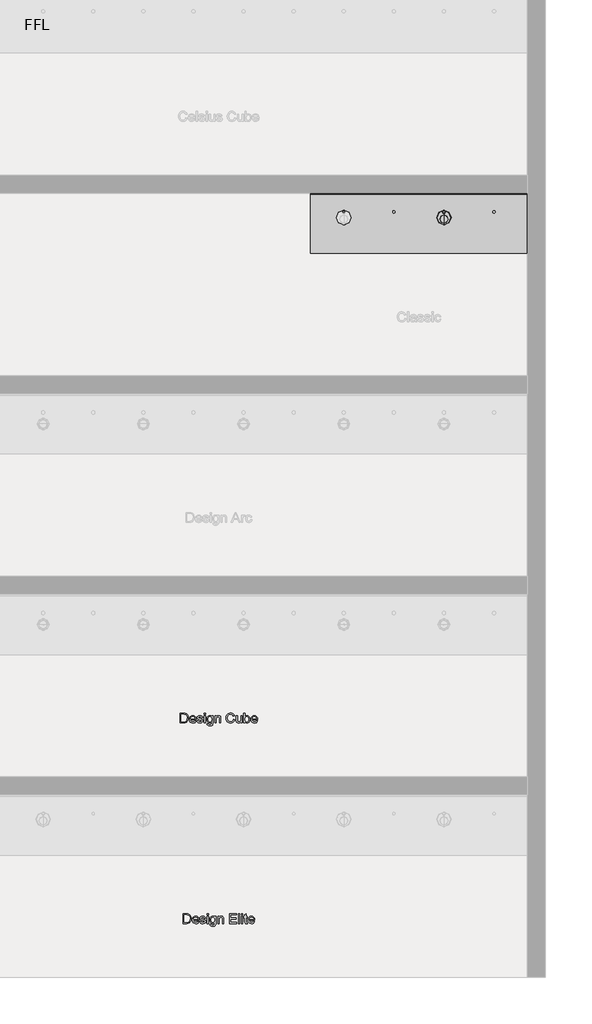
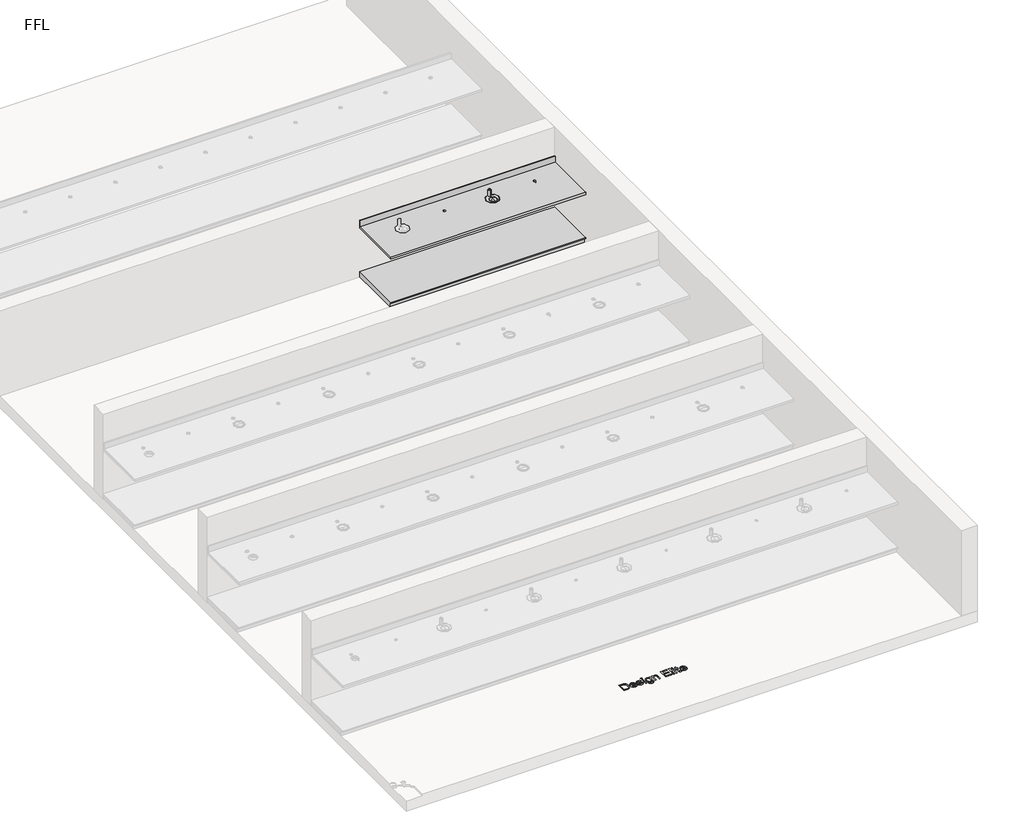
# One storey, part 4 of 5: 2 furniture elements, 2 proxies, 1 flow terminal.
"""IFC4 building model written with IfcOpenShell, lengths in millimetres."""

from ifc_helpers import new_model, si_unit, frame, origin, origin_with_axes, place, context, project, spatial, polyline, circle_curve, outline, extrude, transform, mapped, element, save
from ifc_brep_helpers import plane_surface, revolved_surface, advanced_brep
from components import bright_chrome_13082571, generic_plinth_900mm_89497062

model = new_model("IFC4")

# Units and contexts
model_context = context("Model", 3, world=origin())
ifc_project = project(units=[si_unit("LENGTHUNIT", "METRE", prefix="MILLI")], contexts=[model_context])

# Site, building, storey
site = spatial("IfcSite", under=ifc_project)
building = spatial("IfcBuilding", under=site)
storey = spatial("IfcBuildingStorey", under=building, Name="FFL", Elevation=0.0)

# Proxies
placement = place(None, origin())
element("IfcBuildingElementProxy", 1, Name="150mm Arial", ObjectType="150mm Arial", at=placement, inside=storey, context=model_context, shape_type="SweptSolid", body=[
    extrude(outline(polyline([(-2919.3501351, -75.6314289), (-2919.3501351, 72.0608788), (-2868.4006159, 72.0608788), (-2842.0424428, 69.9334749), (-2820.335712, 59.3685711), (-2810.1223707, 48.1185711), (-2802.8477313, 34.1281865), (-2798.4937649, 17.6678499), (-2797.0424428, -0.9920059), (-2800.9727313, -30.7936885), (-2811.0688851, -52.302102), (-2824.554462, -65.6975347), (-2842.2047024, -73.1073905), (-2865.9486928, -75.6314289), (-2919.3501351, -75.6314289)]), holes=[polyline([(-2900.8885967, -57.1698905), (-2868.2203274, -57.1698905), (-2844.4583082, -54.5016212), (-2830.7563851, -46.9655635), (-2819.524414, -28.630227), (-2815.5039813, -0.7035443), (-2817.4736327, 19.416648), (-2823.382587, 34.2724172), (-2832.1130558, 44.4767441), (-2842.5472505, 50.6426095), (-2868.7251351, 53.5993403), (-2900.8885967, 53.5993403), (-2900.8885967, -57.1698905)])]), origin_with_axes(), (0.0, 0.0, 1.0), 5.0),
    extrude(outline(polyline([(-2698.0280197, -43.3237366), (-2679.9270582, -45.6314289), (-2686.4489933, -59.270251), (-2696.8561447, -69.4655635), (-2710.9141375, -75.8207318), (-2728.3885967, -77.9391212), (-2750.0502553, -74.2837727), (-2766.7179236, -63.317727), (-2777.3459284, -45.7531236), (-2780.8885967, -22.302102), (-2777.3098707, 1.9376816), (-2766.5736928, 20.0656865), (-2750.1313851, 31.369773), (-2729.4342697, 35.1378018), (-2709.3816856, 31.3787874), (-2693.3585486, 20.1017441), (-2682.8522385, 2.009797), (-2679.3501351, -22.1939289), (-2679.4583082, -27.1698905), (-2762.4270582, -27.1698905), (-2759.2314452, -40.989001), (-2751.8080678, -51.1482559), (-2741.094426, -57.395251), (-2728.0280197, -59.4775828), (-2709.9270582, -55.6194097), (-2698.0280197, -43.3237366)]), holes=[polyline([(-2762.4270582, -8.708352), (-2697.8116736, -8.708352), (-2700.3086688, 1.0452538), (-2705.2035005, 8.0224172), (-2715.9667217, 14.5128018), (-2729.5063851, 16.6762634), (-2741.9507962, 14.9500014), (-2752.2407601, 9.7712153), (-2759.3937048, 1.6987994), (-2762.4270582, -8.708352)])]), origin_with_axes(), (0.0, 0.0, 1.0), 5.0),
    extrude(outline(polyline([(-2667.8116736, -43.3237366), (-2649.3501351, -41.0160443), (-2646.4384765, -48.9126789), (-2640.804462, -54.7179674), (-2621.2251351, -59.4775828), (-2602.4030197, -55.114602), (-2596.273212, -44.8742174), (-2602.4390774, -36.5809482), (-2621.4414813, -31.3165251), (-2649.241962, -22.2840732), (-2661.3753755, -11.7371982), (-2665.5039813, 3.1546288), (-2662.1866736, 16.9106384), (-2653.1361928, 27.4214557), (-2641.399414, 32.8841961), (-2625.5160005, 35.1378018), (-2603.0520582, 31.5140038), (-2588.773212, 21.7063115), (-2582.4270582, 5.1378018), (-2600.8885967, 2.8301095), (-2607.8297024, 13.0164076), (-2624.0736928, 16.6762634), (-2641.741962, 13.1786672), (-2647.0424428, 5.0296288), (-2644.8429236, -0.3429674), (-2637.9559043, -4.4174866), (-2622.054462, -8.3477751), (-2594.9571063, -17.0376789), (-2582.3729717, -26.8814289), (-2577.8116736, -42.927102), (-2583.1662409, -60.5953712), (-2598.616962, -73.4138809), (-2621.477539, -77.9391212), (-2640.0923226, -75.7576309), (-2653.6770582, -69.2131597), (-2662.7455678, -58.3778232), (-2667.8116736, -43.3237366)])), origin_with_axes(), (0.0, 0.0, 1.0), 5.0),
    extrude(outline(polyline([(-2557.0424428, 53.5993403), (-2557.0424428, 72.0608788), (-2538.5809043, 72.0608788), (-2538.5809043, 53.5993403), (-2557.0424428, 53.5993403)])), origin_with_axes(), (0.0, 0.0, 1.0), 5.0),
    extrude(outline(polyline([(-2557.0424428, -75.6314289), (-2557.0424428, 32.8301095), (-2538.5809043, 32.8301095), (-2538.5809043, -75.6314289), (-2557.0424428, -75.6314289)])), origin_with_axes(), (0.0, 0.0, 1.0), 5.0),
    extrude(outline(polyline([(-2515.5039813, -84.8621982), (-2497.0424428, -87.1698905), (-2491.0568659, -96.9054674), (-2473.1361928, -101.0160443), (-2454.241962, -96.364602), (-2445.227539, -83.3117174), (-2443.9655197, -61.7852751), (-2456.9643178, -72.1698905), (-2472.8116736, -75.6314289), (-2491.8456279, -71.6019818), (-2506.038837, -59.5136405), (-2514.8684644, -41.7912847), (-2517.8116736, -20.8597943), (-2512.5292217, 7.7519845), (-2506.0658803, 19.3670687), (-2497.2407601, 27.9983788), (-2486.3558442, 33.3529461), (-2473.7131159, 35.1378018), (-2457.2437649, 31.0993403), (-2443.9655197, 18.9839557), (-2443.9655197, 32.8301095), (-2425.5039813, 32.8301095), (-2425.5039813, -60.8117174), (-2426.7660005, -82.4328111), (-2430.5520582, -96.6710924), (-2437.0739933, -106.1137006), (-2446.5436447, -113.3477751), (-2458.7536808, -117.9451309), (-2473.4967697, -119.4775828), (-2490.6737529, -117.3186285), (-2504.1998947, -110.8417655), (-2512.8762769, -100.028965), (-2515.5039813, -84.8621982)]), holes=[polyline([(-2499.3501351, -19.5977751), (-2497.3804837, -36.5313688), (-2491.4715293, -48.1734962), (-2482.5878154, -54.9207919), (-2471.6938851, -57.1698905), (-2460.8810846, -54.9343135), (-2451.9522986, -48.2275828), (-2445.9622144, -36.7341934), (-2443.9655197, -20.1386405), (-2446.0208082, -4.1335323), (-2452.1866736, 7.3914076), (-2461.2461688, 14.3550494), (-2471.9823467, 16.6762634), (-2482.5247144, 14.3911071), (-2491.3633563, 7.5356384), (-2497.3534404, -3.8180275), (-2499.3501351, -19.5977751)])]), origin_with_axes(), (0.0, 0.0, 1.0), 5.0),
    extrude(outline(polyline([(-2397.8116736, -75.6314289), (-2397.8116736, 32.8301095), (-2379.3501351, 32.8301095), (-2379.3501351, 17.6858788), (-2365.2335486, 30.7748211), (-2345.960712, 35.1378018), (-2328.5268178, 31.6221768), (-2316.6277793, 22.3914076), (-2311.0929236, 8.8156865), (-2310.1193659, -9.0328712), (-2310.1193659, -75.6314289), (-2328.5809043, -75.6314289), (-2328.5809043, -11.520852), (-2330.7083082, 4.8132826), (-2338.226337, 13.4490999), (-2350.9006159, 16.6762634), (-2361.7134164, 14.8643643), (-2370.930664, 9.4286672), (-2377.2452673, -1.0731357), (-2379.3501351, -18.083352), (-2379.3501351, -75.6314289), (-2397.8116736, -75.6314289)])), origin_with_axes(), (0.0, 0.0, 1.0), 5.0),
    extrude(outline(polyline([(-2120.8885967, -23.1314289), (-2102.4270582, -27.8910443), (-2110.945688, -49.403965), (-2124.3140774, -65.1206116), (-2141.8741736, -74.7344938), (-2162.9679236, -77.9391212), (-2184.3816856, -75.5142414), (-2201.3873947, -68.239602), (-2214.4222505, -56.3676068), (-2223.9234524, -40.1506597), (-2229.7242337, -21.0851549), (-2231.6578274, -0.6674866), (-2229.4718298, 20.8679701), (-2222.913837, 39.4647249), (-2212.3263971, 54.5323331), (-2198.0520582, 65.4803499), (-2181.1229717, 72.1465158), (-2162.571289, 74.3685711), (-2142.3294019, 71.4929701), (-2125.5941255, 62.8661672), (-2112.8882962, 49.0200134), (-2104.7347505, 30.4863595), (-2123.196289, 26.0873211), (-2129.5965293, 39.5503619), (-2138.3405197, 48.7856384), (-2149.5364332, 54.126684), (-2163.2924428, 55.9070326), (-2179.148813, 53.932874), (-2192.1746543, 48.010398), (-2202.0589692, 38.7615999), (-2208.4907601, 26.8084749), (-2213.196289, -0.6314289), (-2207.6253755, -32.4343135), (-2200.5039813, -44.310816), (-2190.2816255, -52.7528232), (-2178.0265173, -57.7963929), (-2164.8068659, -59.4775828), (-2149.3967096, -57.1879193), (-2136.555664, -50.3189289), (-2126.8606519, -38.942727), (-2120.8885967, -23.1314289)])), origin_with_axes(), (0.0, 0.0, 1.0), 5.0),
    extrude(outline(polyline([(-2010.1193659, -75.6314289), (-2010.1193659, -56.989602), (-2024.5785005, -72.7017414), (-2043.4366736, -77.9391212), (-2060.7984524, -74.2612366), (-2072.7696063, -65.0304674), (-2078.2684043, -51.4367174), (-2079.3501351, -34.2732559), (-2079.3501351, 32.8301095), (-2060.8885967, 32.8301095), (-2060.8885967, -25.583352), (-2059.7708082, -44.4054674), (-2052.4691255, -55.4571501), (-2038.7131159, -59.4775828), (-2023.2984524, -55.3670059), (-2013.1121543, -44.1710924), (-2010.1193659, -23.6001789), (-2010.1193659, 32.8301095), (-1991.6578274, 32.8301095), (-1991.6578274, -75.6314289), (-2010.1193659, -75.6314289)])), origin_with_axes(), (0.0, 0.0, 1.0), 5.0),
    extrude(outline(polyline([(-1947.8116736, -75.6314289), (-1966.273212, -75.6314289), (-1966.273212, 72.0608788), (-1947.8116736, 72.0608788), (-1947.8116736, 17.2892441), (-1934.8849909, 30.6756624), (-1918.821289, 35.1378018), (-1900.3236928, 31.1173691), (-1885.9727313, 19.8132826), (-1877.1566255, 2.2351576), (-1873.9655197, -19.7780635), (-1877.2693058, -44.4234962), (-1887.180664, -62.7588328), (-1901.7254356, -74.1440491), (-1918.929462, -77.9391212), (-1935.3447265, -73.0442895), (-1947.8116736, -58.3597943), (-1947.8116736, -75.6314289)]), holes=[polyline([(-1947.8116736, -20.6434482), (-1946.5496543, -36.0400828), (-1942.7635967, -46.4607559), (-1933.0911207, -56.223376), (-1920.5160005, -59.4775828), (-1909.8609524, -57.0797462), (-1900.7563851, -49.8862366), (-1894.5093899, -37.942126), (-1892.4270582, -21.2924866), (-1894.4237529, -4.3994578), (-1900.413837, 7.4094365), (-1909.23445, 14.3595566), (-1919.7227313, 16.6762634), (-1930.3777793, 14.2784268), (-1939.4823467, 7.0849172), (-1945.7293418, -4.6428472), (-1947.8116736, -20.6434482)])]), origin_with_axes(), (0.0, 0.0, 1.0), 5.0),
    extrude(outline(polyline([(-1777.258789, -43.3237366), (-1759.1578274, -45.6314289), (-1765.6797625, -59.270251), (-1776.086914, -69.4655635), (-1790.1449067, -75.8207318), (-1807.6193659, -77.9391212), (-1829.2810245, -74.2837727), (-1845.9486928, -63.317727), (-1856.5766976, -45.7531236), (-1860.1193659, -22.302102), (-1856.5406399, 1.9376816), (-1845.804462, 20.0656865), (-1829.3621543, 31.369773), (-1808.665039, 35.1378018), (-1788.6124548, 31.3787874), (-1772.5893178, 20.1017441), (-1762.0830077, 2.009797), (-1758.5809043, -22.1939289), (-1758.6890774, -27.1698905), (-1841.6578274, -27.1698905), (-1838.4622144, -40.989001), (-1831.038837, -51.1482559), (-1820.3251952, -57.395251), (-1807.258789, -59.4775828), (-1789.1578274, -55.6194097), (-1777.258789, -43.3237366)]), holes=[polyline([(-1841.6578274, -8.708352), (-1777.0424428, -8.708352), (-1779.539438, 1.0452538), (-1784.4342697, 8.0224172), (-1795.1974909, 14.5128018), (-1808.7371543, 16.6762634), (-1821.1815654, 14.9500014), (-1831.4715293, 9.7712153), (-1838.6244741, 1.6987994), (-1841.6578274, -8.708352)])]), origin_with_axes(), (0.0, 0.0, 1.0), 5.0),
])
element("IfcBuildingElementProxy", 2, Name="150mm Arial", ObjectType="150mm Arial", at=placement, inside=storey, context=model_context, shape_type="SweptSolid", body=[
    extrude(outline(polyline([(-2875.5039813, -3075.6314289), (-2875.5039813, -2927.9391212), (-2824.554462, -2927.9391212), (-2798.196289, -2930.0665251), (-2776.4895582, -2940.6314289), (-2766.2762168, -2951.8814289), (-2759.0015774, -2965.8718135), (-2754.6476111, -2982.3321501), (-2753.196289, -3000.9920059), (-2757.1265774, -3030.7936885), (-2767.2227313, -3052.302102), (-2780.7083082, -3065.6975347), (-2798.3585486, -3073.1073905), (-2822.102539, -3075.6314289), (-2875.5039813, -3075.6314289)]), holes=[polyline([(-2857.0424428, -3057.1698905), (-2824.3741736, -3057.1698905), (-2800.6121543, -3054.5016212), (-2786.9102313, -3046.9655635), (-2775.6782601, -3028.630227), (-2771.6578274, -3000.7035443), (-2773.6274789, -2980.583352), (-2779.5364332, -2965.7275828), (-2788.2669019, -2955.5232559), (-2798.7010967, -2949.3573905), (-2824.8789813, -2946.4006597), (-2857.0424428, -2946.4006597), (-2857.0424428, -3057.1698905)])]), origin_with_axes(), (0.0, 0.0, 1.0), 5.0),
    extrude(outline(polyline([(-2654.1818659, -3043.3237366), (-2636.0809043, -3045.6314289), (-2642.6028394, -3059.270251), (-2653.0099909, -3069.4655635), (-2667.0679837, -3075.8207318), (-2684.5424428, -3077.9391212), (-2706.2041015, -3074.2837727), (-2722.8717697, -3063.317727), (-2733.4997745, -3045.7531236), (-2737.0424428, -3022.302102), (-2733.4637168, -2998.0623184), (-2722.727539, -2979.9343135), (-2706.2852313, -2968.630227), (-2685.5881159, -2964.8621982), (-2665.5355317, -2968.6212126), (-2649.5123947, -2979.8982559), (-2639.0060846, -2997.990203), (-2635.5039813, -3022.1939289), (-2635.6121543, -3027.1698905), (-2718.5809043, -3027.1698905), (-2715.3852914, -3040.989001), (-2707.961914, -3051.1482559), (-2697.2482721, -3057.395251), (-2684.1818659, -3059.4775828), (-2666.0809043, -3055.6194097), (-2654.1818659, -3043.3237366)]), holes=[polyline([(-2718.5809043, -3008.708352), (-2653.9655197, -3008.708352), (-2656.4625149, -2998.9547462), (-2661.3573467, -2991.9775828), (-2672.1205678, -2985.4871982), (-2685.6602313, -2983.3237366), (-2698.1046423, -2985.0499986), (-2708.3946063, -2990.2287847), (-2715.547551, -2998.3012006), (-2718.5809043, -3008.708352)])]), origin_with_axes(), (0.0, 0.0, 1.0), 5.0),
    extrude(outline(polyline([(-2623.9655197, -3043.3237366), (-2605.5039813, -3041.0160443), (-2602.5923226, -3048.9126789), (-2596.9583082, -3054.7179674), (-2577.3789813, -3059.4775828), (-2558.5568659, -3055.114602), (-2552.4270582, -3044.8742174), (-2558.5929236, -3036.5809482), (-2577.5953274, -3031.3165251), (-2605.3958082, -3022.2840732), (-2617.5292217, -3011.7371982), (-2621.6578274, -2996.8453712), (-2618.3405197, -2983.0893616), (-2609.290039, -2972.5785443), (-2597.5532601, -2967.1158039), (-2581.6698467, -2964.8621982), (-2559.2059043, -2968.4859962), (-2544.9270582, -2978.2936885), (-2538.5809043, -2994.8621982), (-2557.0424428, -2997.1698905), (-2563.9835486, -2986.9835924), (-2580.227539, -2983.3237366), (-2597.8958082, -2986.8213328), (-2603.196289, -2994.9703712), (-2600.9967697, -3000.3429674), (-2594.1097505, -3004.4174866), (-2578.2083082, -3008.3477751), (-2551.1109524, -3017.0376789), (-2538.5268178, -3026.8814289), (-2533.9655197, -3042.927102), (-2539.320087, -3060.5953712), (-2554.7708082, -3073.4138809), (-2577.6313851, -3077.9391212), (-2596.2461688, -3075.7576309), (-2609.8309043, -3069.2131597), (-2618.899414, -3058.3778232), (-2623.9655197, -3043.3237366)])), origin_with_axes(), (0.0, 0.0, 1.0), 5.0),
    extrude(outline(polyline([(-2513.196289, -2946.4006597), (-2513.196289, -2927.9391212), (-2494.7347505, -2927.9391212), (-2494.7347505, -2946.4006597), (-2513.196289, -2946.4006597)])), origin_with_axes(), (0.0, 0.0, 1.0), 5.0),
    extrude(outline(polyline([(-2513.196289, -3075.6314289), (-2513.196289, -2967.1698905), (-2494.7347505, -2967.1698905), (-2494.7347505, -3075.6314289), (-2513.196289, -3075.6314289)])), origin_with_axes(), (0.0, 0.0, 1.0), 5.0),
    extrude(outline(polyline([(-2471.6578274, -3084.8621982), (-2453.196289, -3087.1698905), (-2447.210712, -3096.9054674), (-2429.290039, -3101.0160443), (-2410.3958082, -3096.364602), (-2401.3813851, -3083.3117174), (-2400.1193659, -3061.7852751), (-2413.118164, -3072.1698905), (-2428.9655197, -3075.6314289), (-2447.9994741, -3071.6019818), (-2462.1926832, -3059.5136405), (-2471.0223106, -3041.7912847), (-2473.9655197, -3020.8597943), (-2468.6830678, -2992.2480155), (-2462.2197265, -2980.6329313), (-2453.3946063, -2972.0016212), (-2442.5096904, -2966.6470539), (-2429.866962, -2964.8621982), (-2413.3976111, -2968.9006597), (-2400.1193659, -2981.0160443), (-2400.1193659, -2967.1698905), (-2381.6578274, -2967.1698905), (-2381.6578274, -3060.8117174), (-2382.9198467, -3082.4328111), (-2386.7059043, -3096.6710924), (-2393.2278394, -3106.1137006), (-2402.6974909, -3113.3477751), (-2414.9075269, -3117.9451309), (-2429.6506159, -3119.4775828), (-2446.8275991, -3117.3186285), (-2460.3537409, -3110.8417655), (-2469.0301231, -3100.028965), (-2471.6578274, -3084.8621982)]), holes=[polyline([(-2455.5039813, -3019.5977751), (-2453.5343298, -3036.5313688), (-2447.6253755, -3048.1734962), (-2438.7416616, -3054.9207919), (-2427.8477313, -3057.1698905), (-2417.0349308, -3054.9343135), (-2408.1061447, -3048.2275828), (-2402.1160606, -3036.7341934), (-2400.1193659, -3020.1386405), (-2402.1746543, -3004.1335323), (-2408.3405197, -2992.6085924), (-2417.4000149, -2985.6449506), (-2428.1361928, -2983.3237366), (-2438.6785606, -2985.6088929), (-2447.5172024, -2992.4643616), (-2453.5072866, -3003.8180275), (-2455.5039813, -3019.5977751)])]), origin_with_axes(), (0.0, 0.0, 1.0), 5.0),
    extrude(outline(polyline([(-2353.9655197, -3075.6314289), (-2353.9655197, -2967.1698905), (-2335.5039813, -2967.1698905), (-2335.5039813, -2982.3141212), (-2321.3873947, -2969.2251789), (-2302.1145582, -2964.8621982), (-2284.680664, -2968.3778232), (-2272.7816255, -2977.6085924), (-2267.2467697, -2991.1843135), (-2266.273212, -3009.0328712), (-2266.273212, -3075.6314289), (-2284.7347505, -3075.6314289), (-2284.7347505, -3011.520852), (-2286.8621543, -2995.1867174), (-2294.3801832, -2986.5509001), (-2307.054462, -2983.3237366), (-2317.8672625, -2985.1356357), (-2327.0845101, -2990.5713328), (-2333.3991135, -3001.0731357), (-2335.5039813, -3018.083352), (-2335.5039813, -3075.6314289), (-2353.9655197, -3075.6314289)])), origin_with_axes(), (0.0, 0.0, 1.0), 5.0),
    extrude(outline(polyline([(-2180.8885967, -3075.6314289), (-2180.8885967, -2927.9391212), (-2074.7347505, -2927.9391212), (-2074.7347505, -2946.4006597), (-2162.4270582, -2946.4006597), (-2162.4270582, -2990.2468135), (-2079.3501351, -2990.2468135), (-2079.3501351, -3008.708352), (-2162.4270582, -3008.708352), (-2162.4270582, -3057.1698905), (-2072.4270582, -3057.1698905), (-2072.4270582, -3075.6314289), (-2180.8885967, -3075.6314289)])), origin_with_axes(), (0.0, 0.0, 1.0), 5.0),
    extrude(outline(polyline([(-2047.0424428, -3075.6314289), (-2047.0424428, -2927.9391212), (-2028.5809043, -2927.9391212), (-2028.5809043, -3075.6314289), (-2047.0424428, -3075.6314289)])), origin_with_axes(), (0.0, 0.0, 1.0), 5.0),
    extrude(outline(polyline([(-2000.8885967, -3075.6314289), (-2000.8885967, -2967.1698905), (-1982.4270582, -2967.1698905), (-1982.4270582, -3075.6314289), (-2000.8885967, -3075.6314289)])), origin_with_axes(), (0.0, 0.0, 1.0), 5.0),
    extrude(outline(polyline([(-2000.8885967, -2946.4006597), (-2000.8885967, -2927.9391212), (-1982.4270582, -2927.9391212), (-1982.4270582, -2946.4006597), (-2000.8885967, -2946.4006597)])), origin_with_axes(), (0.0, 0.0, 1.0), 5.0),
    extrude(outline(polyline([(-1915.5039813, -3060.2347943), (-1913.196289, -3076.1722943), (-1927.0063851, -3077.9391212), (-1942.4751351, -3074.8742174), (-1950.1914813, -3066.833352), (-1952.4270582, -3045.8838328), (-1952.4270582, -2985.6314289), (-1966.273212, -2985.6314289), (-1966.273212, -2967.1698905), (-1952.4270582, -2967.1698905), (-1952.4270582, -2940.8117174), (-1933.9655197, -2929.958352), (-1933.9655197, -2967.1698905), (-1915.5039813, -2967.1698905), (-1915.5039813, -2985.6314289), (-1933.9655197, -2985.6314289), (-1933.9655197, -3045.3429674), (-1932.991962, -3054.8621982), (-1929.836914, -3058.2335924), (-1923.5448467, -3059.4775828), (-1915.5039813, -3060.2347943)])), origin_with_axes(), (0.0, 0.0, 1.0), 5.0),
    extrude(outline(polyline([(-1821.1049428, -3043.3237366), (-1803.0039813, -3045.6314289), (-1809.5259164, -3059.270251), (-1819.9330678, -3069.4655635), (-1833.9910606, -3075.8207318), (-1851.4655197, -3077.9391212), (-1873.1271784, -3074.2837727), (-1889.7948467, -3063.317727), (-1900.4228515, -3045.7531236), (-1903.9655197, -3022.302102), (-1900.3867938, -2998.0623184), (-1889.6506159, -2979.9343135), (-1873.2083082, -2968.630227), (-1852.5111928, -2964.8621982), (-1832.4586087, -2968.6212126), (-1816.4354717, -2979.8982559), (-1805.9291616, -2997.990203), (-1802.4270582, -3022.1939289), (-1802.5352313, -3027.1698905), (-1885.5039813, -3027.1698905), (-1882.3083683, -3040.989001), (-1874.8849909, -3051.1482559), (-1864.1713491, -3057.395251), (-1851.1049428, -3059.4775828), (-1833.0039813, -3055.6194097), (-1821.1049428, -3043.3237366)]), holes=[polyline([(-1885.5039813, -3008.708352), (-1820.8885967, -3008.708352), (-1823.3855918, -2998.9547462), (-1828.2804236, -2991.9775828), (-1839.0436447, -2985.4871982), (-1852.5833082, -2983.3237366), (-1865.0277192, -2985.0499986), (-1875.3176832, -2990.2287847), (-1882.4706279, -2998.3012006), (-1885.5039813, -3008.708352)])]), origin_with_axes(), (0.0, 0.0, 1.0), 5.0),
])

# Flow terminal
bright_chrome_shape = bright_chrome_13082571(model_context)
element("IfcFlowTerminal", 3, ObjectType="z_PlumFixt_Zip Australia_Font and Tap Riser : Gloss Black", at=placement, inside=storey, context=model_context, shape_type="MappedRepresentation", body=[
    mapped(bright_chrome_shape, transform((1029.2647071, 7467.9893304, 900.0), x_axis=(1.0, 0.0, 0.0), y_axis=(0.0, 1.0, 0.0), z_axis=(0.0, 0.0, 1.0))),
])

# Furniture
element("IfcFurniture", 4, ObjectType="Counter Top : 900mm Depth", at=placement, inside=storey, context=model_context, shape_type="AdvancedBrep", body=[
    advanced_brep(
    [(-969.7352929, 6948.2393304, 900.0), (2280.2657919, 6948.2393304, 900.0), (2280.2657919, 7829.1893304, 900.0), (-969.7352929, 7829.1893304, 900.0), (1780.2647071, 7550.7393304, 900.0), (1780.2647071, 7585.7393304, 900.0), (1030.2647071, 7407.6212903, 900.0), (1030.2647071, 7515.6212903, 900.0), (1030.2647071, 7550.7393304, 900.0), (1030.2647071, 7585.7393304, 900.0), (280.2647071, 7550.7393304, 900.0), (280.2647071, 7585.7393304, 900.0), (-469.7352929, 7407.6212903, 900.0), (-469.7352929, 7515.6212903, 900.0), (-469.7352929, 7550.7393304, 900.0), (-469.7352929, 7585.7393304, 900.0), (2280.2657919, 7848.2393304, 860.0), (2280.2657919, 6948.2393304, 860.0), (-969.7352929, 6948.2393304, 860.0), (-969.7352929, 7848.2393304, 860.0), (1780.2647071, 7585.7393304, 860.0), (1780.2647071, 7550.7393304, 860.0), (1030.2647071, 7515.6212903, 860.0), (1030.2647071, 7407.6212903, 860.0), (1030.2647071, 7585.7393304, 860.0), (1030.2647071, 7550.7393304, 860.0), (280.2647071, 7585.7393304, 860.0), (280.2647071, 7550.7393304, 860.0), (-469.7352929, 7515.6212903, 860.0), (-469.7352929, 7407.6212903, 860.0), (-469.7352929, 7585.7393304, 860.0), (-469.7352929, 7550.7393304, 860.0), (-969.7352929, 7848.2393304, 1001.6), (2280.2657919, 7848.2393304, 1001.6), (-969.7352929, 7829.1893304, 1001.6), (2280.2657919, 7829.1893304, 1001.6)],
    [
        (0, 1),
        (1, 2),
        (2, 3),
        (3, 0),
        (4, 5, circle_curve(frame((1780.2647071, 7568.2393304, 900.0), z_axis=(0.0, 0.0, -1.0), x_axis=(0.0, -1.0, 0.0)), 17.5)),
        (5, 4, circle_curve(frame((1780.2647071, 7568.2393304, 900.0), z_axis=(0.0, 0.0, -1.0), x_axis=(0.0, -1.0, 0.0)), 17.5)),
        (6, 7, circle_curve(frame((1030.2647071, 7461.6212903, 900.0), z_axis=(0.0, 0.0, -1.0), x_axis=(0.0, -1.0, 0.0)), 54.0)),
        (7, 6, circle_curve(frame((1030.2647071, 7461.6212903, 900.0), z_axis=(0.0, 0.0, -1.0), x_axis=(0.0, -1.0, 0.0)), 54.0)),
        (8, 9, circle_curve(frame((1030.2647071, 7568.2393304, 900.0), z_axis=(0.0, 0.0, -1.0), x_axis=(0.0, -1.0, 0.0)), 17.5)),
        (9, 8, circle_curve(frame((1030.2647071, 7568.2393304, 900.0), z_axis=(0.0, 0.0, -1.0), x_axis=(0.0, -1.0, 0.0)), 17.5)),
        (10, 11, circle_curve(frame((280.2647071, 7568.2393304, 900.0), z_axis=(0.0, 0.0, -1.0), x_axis=(0.0, -1.0, 0.0)), 17.5)),
        (11, 10, circle_curve(frame((280.2647071, 7568.2393304, 900.0), z_axis=(0.0, 0.0, -1.0), x_axis=(0.0, -1.0, 0.0)), 17.5)),
        (12, 13, circle_curve(frame((-469.7352929, 7461.6212903, 900.0), z_axis=(0.0, 0.0, -1.0), x_axis=(0.0, -1.0, 0.0)), 54.0)),
        (13, 12, circle_curve(frame((-469.7352929, 7461.6212903, 900.0), z_axis=(0.0, 0.0, -1.0), x_axis=(0.0, -1.0, 0.0)), 54.0)),
        (14, 15, circle_curve(frame((-469.7352929, 7568.2393304, 900.0), z_axis=(0.0, 0.0, -1.0), x_axis=(0.0, -1.0, 0.0)), 17.5)),
        (15, 14, circle_curve(frame((-469.7352929, 7568.2393304, 900.0), z_axis=(0.0, 0.0, -1.0), x_axis=(0.0, -1.0, 0.0)), 17.5)),
        (16, 17),
        (17, 18),
        (18, 19),
        (19, 16),
        (20, 21, circle_curve(frame((1780.2647071, 7568.2393304, 860.0), z_axis=(0.0, 0.0, 1.0), x_axis=(0.0, -1.0, 0.0)), 17.5)),
        (21, 20, circle_curve(frame((1780.2647071, 7568.2393304, 860.0), z_axis=(0.0, 0.0, 1.0), x_axis=(0.0, -1.0, 0.0)), 17.5)),
        (22, 23, circle_curve(frame((1030.2647071, 7461.6212903, 860.0), z_axis=(0.0, 0.0, 1.0), x_axis=(0.0, -1.0, 0.0)), 54.0)),
        (23, 22, circle_curve(frame((1030.2647071, 7461.6212903, 860.0), z_axis=(0.0, 0.0, 1.0), x_axis=(0.0, -1.0, 0.0)), 54.0)),
        (24, 25, circle_curve(frame((1030.2647071, 7568.2393304, 860.0), z_axis=(0.0, 0.0, 1.0), x_axis=(0.0, -1.0, 0.0)), 17.5)),
        (25, 24, circle_curve(frame((1030.2647071, 7568.2393304, 860.0), z_axis=(0.0, 0.0, 1.0), x_axis=(0.0, -1.0, 0.0)), 17.5)),
        (26, 27, circle_curve(frame((280.2647071, 7568.2393304, 860.0), z_axis=(0.0, 0.0, 1.0), x_axis=(0.0, -1.0, 0.0)), 17.5)),
        (27, 26, circle_curve(frame((280.2647071, 7568.2393304, 860.0), z_axis=(0.0, 0.0, 1.0), x_axis=(0.0, -1.0, 0.0)), 17.5)),
        (28, 29, circle_curve(frame((-469.7352929, 7461.6212903, 860.0), z_axis=(0.0, 0.0, 1.0), x_axis=(0.0, -1.0, 0.0)), 54.0)),
        (29, 28, circle_curve(frame((-469.7352929, 7461.6212903, 860.0), z_axis=(0.0, 0.0, 1.0), x_axis=(0.0, -1.0, 0.0)), 54.0)),
        (30, 31, circle_curve(frame((-469.7352929, 7568.2393304, 860.0), z_axis=(0.0, 0.0, 1.0), x_axis=(0.0, -1.0, 0.0)), 17.5)),
        (31, 30, circle_curve(frame((-469.7352929, 7568.2393304, 860.0), z_axis=(0.0, 0.0, 1.0), x_axis=(0.0, -1.0, 0.0)), 17.5)),
        (19, 32),
        (32, 33),
        (33, 16),
        (3, 34),
        (34, 32),
        (18, 0),
        (17, 1),
        (33, 35),
        (35, 2),
        (34, 35),
        (20, 5),
        (4, 21),
        (22, 7),
        (6, 23),
        (24, 9),
        (8, 25),
        (26, 11),
        (10, 27),
        (28, 13),
        (12, 29),
        (30, 15),
        (14, 31),
    ],
    [
        plane_surface(frame((-969.7352929, 7848.2393304, 900.0), z_axis=(0.0, 0.0, 1.0), x_axis=(-1.0, 0.0, 0.0))),
        plane_surface(frame((-969.7352929, 7848.2393304, 860.0), z_axis=(0.0, 0.0, -1.0), x_axis=(1.0, 0.0, 0.0))),
        plane_surface(frame((2280.2657919, 7848.2393304, 900.0), z_axis=(0.0, 1.0, 0.0), x_axis=(0.0, 0.0, -1.0))),
        plane_surface(frame((-969.7352929, 7848.2393304, 900.0), z_axis=(-1.0, 0.0, 0.0), x_axis=(0.0, 0.0, -1.0))),
        plane_surface(frame((-969.7352929, 6948.2393304, 900.0), z_axis=(0.0, -1.0, 0.0), x_axis=(0.0, 0.0, -1.0))),
        plane_surface(frame((2280.2657919, 6948.2393304, 900.0), z_axis=(1.0, 0.0, 0.0), x_axis=(0.0, 0.0, -1.0))),
        plane_surface(frame((-969.7352929, 7848.2393304, 1001.6), z_axis=(0.0, 0.0, 1.0), x_axis=(0.0, -1.0, 0.0))),
        plane_surface(frame((-969.7352929, 7829.1893304, 1001.6), z_axis=(0.0, -1.0, 0.0), x_axis=(0.0, 0.0, -1.0))),
        revolved_surface(polyline([(1780.2647071, 7550.7393304, 900.0), (1780.2647071, 7550.7393304, 860.0)]), (1780.2647071, 7568.2393304, 700.0), (0.0, 0.0, 1.0)),
        revolved_surface(polyline([(1030.2647071, 7407.6212903, 900.0), (1030.2647071, 7407.6212903, 860.0)]), (1030.2647071, 7461.6212903, 700.0), (0.0, 0.0, 1.0)),
        revolved_surface(polyline([(1030.2647071, 7550.7393304, 900.0), (1030.2647071, 7550.7393304, 860.0)]), (1030.2647071, 7568.2393304, 700.0), (0.0, 0.0, 1.0)),
        revolved_surface(polyline([(280.2647071, 7550.7393304, 900.0), (280.2647071, 7550.7393304, 860.0)]), (280.2647071, 7568.2393304, 700.0), (0.0, 0.0, 1.0)),
        revolved_surface(polyline([(-469.7352929, 7407.6212903, 900.0), (-469.7352929, 7407.6212903, 860.0)]), (-469.7352929, 7461.6212903, 700.0), (0.0, 0.0, 1.0)),
        revolved_surface(polyline([(-469.7352929, 7550.7393304, 900.0), (-469.7352929, 7550.7393304, 860.0)]), (-469.7352929, 7568.2393304, 700.0), (0.0, 0.0, 1.0)),
    ],
    [
        (0, [[1, 2, 3, 4], [5, 6], [7, 8], [9, 10], [11, 12], [13, 14], [15, 16]]),
        (1, [[17, 18, 19, 20], [21, 22], [23, 24], [25, 26], [27, 28], [29, 30], [31, 32]]),
        (2, [[-20, 33, 34, 35]]),
        (3, [[-4, 36, 37, -33, -19, 38]]),
        (4, [[-1, -38, -18, 39]]),
        (5, [[-2, -39, -17, -35, 40, 41]]),
        (6, [[-34, -37, 42, -40]]),
        (7, [[-3, -41, -42, -36]]),
        (8, [[43, -5, 44, -21]]),
        (8, [[-43, -22, -44, -6]]),
        (9, [[45, -7, 46, -23]]),
        (9, [[-45, -24, -46, -8]]),
        (10, [[47, -9, 48, -25]]),
        (10, [[-47, -26, -48, -10]]),
        (11, [[49, -11, 50, -27]]),
        (11, [[-49, -28, -50, -12]]),
        (12, [[51, -13, 52, -29]]),
        (12, [[-51, -30, -52, -14]]),
        (13, [[53, -15, 54, -31]]),
        (13, [[-53, -32, -54, -16]]),
    ],
),
])
generic_plinth_900mm_shape = generic_plinth_900mm_89497062(model_context)
element("IfcFurniture", 5, ObjectType="Generic Plinth : 900mm", at=placement, inside=storey, context=model_context, shape_type="MappedRepresentation", body=[
    mapped(generic_plinth_900mm_shape, transform((636.5275446, 7848.2393304, 0.0), x_axis=(1.0, 0.0, 0.0), y_axis=(0.0, 1.0, 0.0), z_axis=(0.0, 0.0, 1.0))),
])

save(model, "model.ifc")
